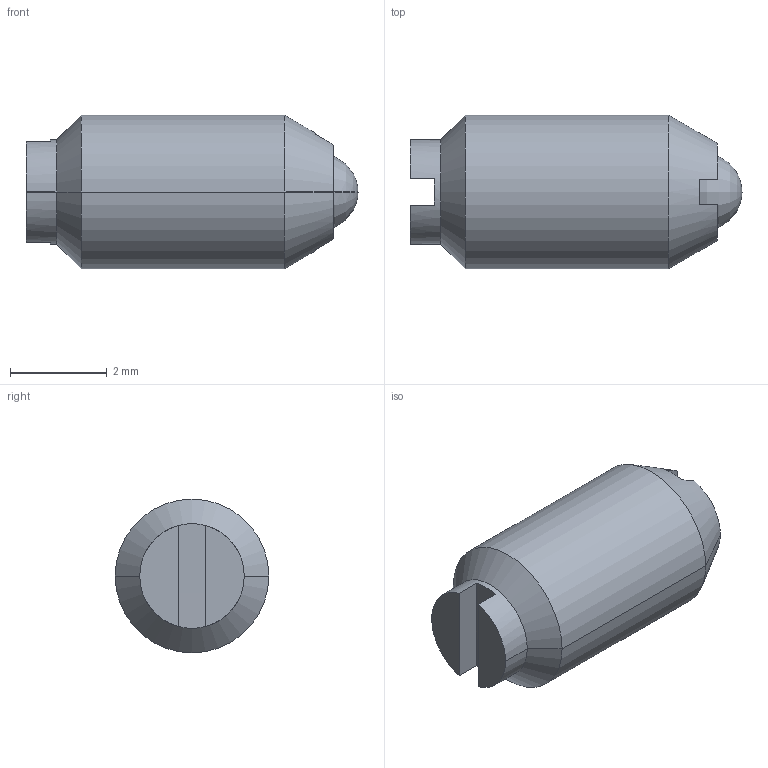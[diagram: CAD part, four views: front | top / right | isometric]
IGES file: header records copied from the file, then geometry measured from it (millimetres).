
Start section:  PTC IGES file: b47-3d.igs
Global section: file name: b47-3d.igs; native system: Pro/ENGINEER by Parametric Technology Corporation; preprocessor: 2002350; author: chant; organization: Unknown; date: 061025.104611; units: inch
Bounding box: 6.86 x 3.17 x 3.17 mm (x, y, z)
Surface area: 87.9 mm2 (no closed solid volume)
Topology: 0 solids, 0 shells, 26 faces, 185 edges, 233 vertices
Faces by surface type: revolution 15, bspline 11
